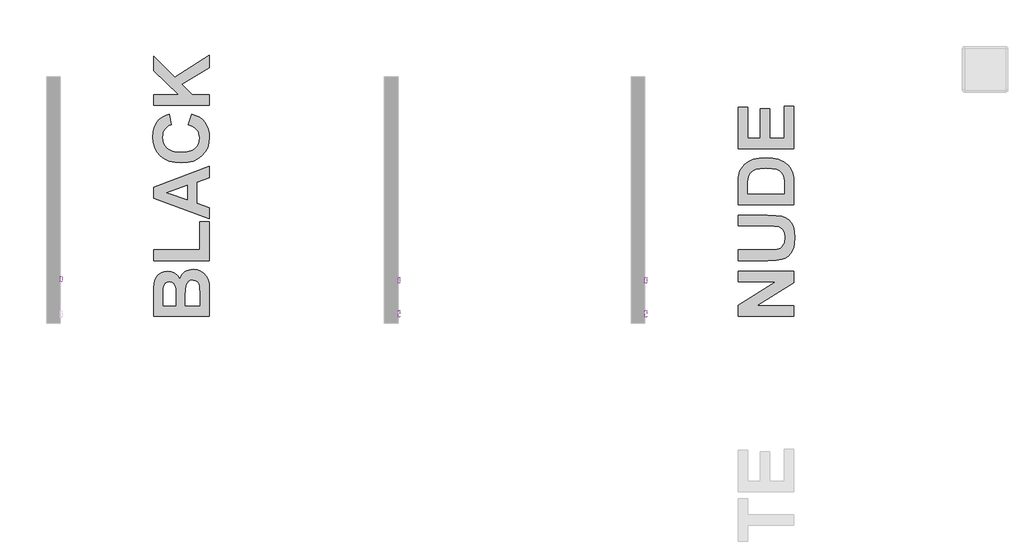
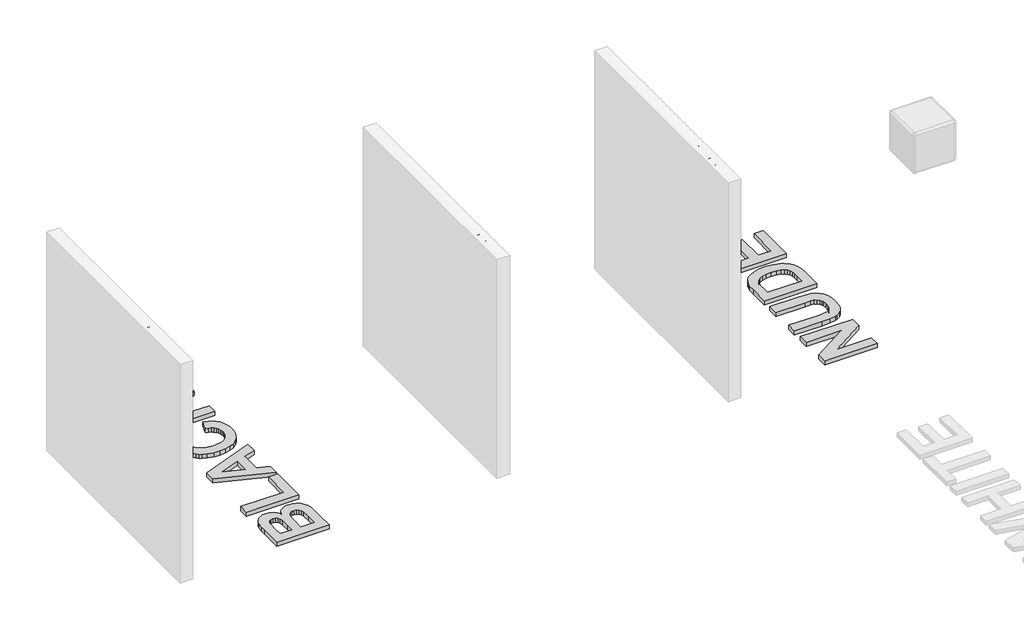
# One storey, part 7 of 8: 7 proxies.
"""IFC4 building model written with IfcOpenShell, lengths in millimetres."""

from ifc_helpers import new_model, si_unit, frame, origin, origin_with_axes, place, context, project, spatial, polyline, outline, extrude, element, save

model = new_model("IFC4")

# Units and contexts
model_context = context("Model", 3, world=origin())
ifc_project = project(units=[si_unit("LENGTHUNIT", "METRE", prefix="MILLI")], contexts=[model_context])

# Site, building, storey
site = spatial("IfcSite", under=ifc_project)
building = spatial("IfcBuilding", under=site)
storey = spatial("IfcBuildingStorey", under=building, Name="PORTOBELLO - SHOWROOM", Elevation=0.0)

# Proxies
placement = place(None, origin())
element("IfcBuildingElementProxy", 1, Name="10mm Arial", ObjectType="10mm Arial", at=placement, inside=storey, context=model_context, shape_type="SweptSolid", body=[
    extrude(outline(polyline([(1635.0884642, 2548.8308244), (1635.0884642, 2649.2871345), (1648.5284197, 2649.2871345), (1701.0129177, 2569.7019962), (1701.0129177, 2649.2871345), (1713.5699565, 2649.2871345), (1713.5699565, 2548.8308244), (1700.1300009, 2548.8308244), (1647.645503, 2628.4404881), (1647.645503, 2548.8308244), (1635.0884642, 2548.8308244)])), frame((23414.625413, 0.0, 0.0), z_axis=(1.0, 0.0, 0.0), x_axis=(0.0, 1.0, 0.0)), (0.0, 0.0, 1.0), 20.0),
    extrude(outline(polyline([(1781.0640399, 2548.8308244), (1781.0640399, 2561.5104905), (1771.2293279, 2550.8235185), (1758.402509, 2547.2611945), (1746.5934969, 2549.7627921), (1738.4510421, 2556.0413115), (1734.7109085, 2565.2874123), (1733.9751445, 2576.9615343), (1733.9751445, 2622.6034272), (1746.5321833, 2622.6034272), (1746.5321833, 2582.8721717), (1747.2924727, 2570.0698782), (1752.2588797, 2562.5528228), (1761.6153451, 2559.8182333), (1772.0999819, 2562.6141365), (1779.0284262, 2570.2292938), (1781.0640399, 2584.2210723), (1781.0640399, 2622.6034272), (1793.6210786, 2622.6034272), (1793.6210786, 2548.8308244), (1781.0640399, 2548.8308244)])), frame((23414.625413, 0.0, 0.0), z_axis=(1.0, 0.0, 0.0), x_axis=(0.0, 1.0, 0.0)), (0.0, 0.0, 1.0), 20.0),
    extrude(outline(polyline([(1856.4062725, 2548.8308244), (1856.4062725, 2560.6766246), (1848.0982708, 2550.6150521), (1836.6142211, 2547.2611945), (1821.0650755, 2552.1172369), (1810.0776666, 2565.667557), (1806.1781174, 2585.6435494), (1809.7710982, 2605.6318044), (1820.537778, 2619.3905911), (1836.5651702, 2624.173057), (1848.1411903, 2620.7517544), (1856.4062725, 2611.8612729), (1856.4062725, 2649.2871345), (1868.9633113, 2649.2871345), (1868.9633113, 2548.8308244), (1856.4062725, 2548.8308244)]), holes=[polyline([(1818.7351562, 2585.6926003), (1820.1515019, 2574.3342437), (1824.4005389, 2566.2561682), (1830.5748251, 2561.427717), (1837.7669181, 2559.8182333), (1844.9559454, 2561.3541406), (1850.9738817, 2565.9618626), (1855.0481748, 2573.7272384), (1856.4062725, 2584.7361071), (1855.0236493, 2596.7719797), (1850.8757798, 2605.1167696), (1844.7045594, 2609.9912061), (1837.2518833, 2611.6160182), (1829.9862139, 2610.0555854), (1824.0326569, 2605.374287), (1820.0595314, 2597.3329998), (1818.7351562, 2585.6926003)])]), frame((23414.625413, 0.0, 0.0), z_axis=(1.0, 0.0, 0.0), x_axis=(0.0, 1.0, 0.0)), (0.0, 0.0, 1.0), 20.0),
    extrude(outline(polyline([(1939.4495015, 2570.8056422), (1951.7612856, 2569.2360124), (1947.3252419, 2559.9592547), (1940.2465792, 2553.0246791), (1930.684713, 2548.7020657), (1918.7990589, 2547.2611945), (1904.065385, 2549.7474637), (1892.7284881, 2557.2062711), (1885.4996069, 2569.1532389), (1883.0899799, 2585.1039891), (1885.5241324, 2601.5912339), (1892.82659, 2613.9214121), (1904.0102027, 2621.6101458), (1918.0878203, 2624.173057), (1931.7270453, 2621.6162771), (1942.6255494, 2613.9459375), (1949.7716572, 2601.6402848), (1952.1536931, 2585.1775655), (1952.0801167, 2581.7930512), (1895.6470186, 2581.7930512), (1897.8205881, 2572.3936662), (1902.8697685, 2565.483616), (1910.1568977, 2561.234579), (1919.0443135, 2559.8182333), (1931.3560976, 2562.4424582), (1939.4495015, 2570.8056422)]), holes=[polyline([(1895.6470186, 2594.3500899), (1939.5966543, 2594.3500899), (1934.5689337, 2605.7299063), (1927.248082, 2610.1444902), (1918.0387694, 2611.6160182), (1902.5754629, 2606.9193914), (1897.7102235, 2601.4287526), (1895.6470186, 2594.3500899)])]), frame((23414.625413, 0.0, 0.0), z_axis=(1.0, 0.0, 0.0), x_axis=(0.0, 1.0, 0.0)), (0.0, 0.0, 1.0), 20.0),
])
element("IfcBuildingElementProxy", 2, Name="10mm Arial", ObjectType="10mm Arial", at=placement, inside=storey, context=model_context, shape_type="SweptSolid", body=[
    extrude(outline(polyline([(1635.0884642, 2548.8308244), (1635.0884642, 2649.2871345), (1648.5284197, 2649.2871345), (1701.0129177, 2569.7019962), (1701.0129177, 2649.2871345), (1713.5699565, 2649.2871345), (1713.5699565, 2548.8308244), (1700.1300009, 2548.8308244), (1647.645503, 2628.4404881), (1647.645503, 2548.8308244), (1635.0884642, 2548.8308244)])), frame((20714.625413, 0.0, 0.0), z_axis=(1.0, 0.0, 0.0), x_axis=(0.0, 1.0, 0.0)), (0.0, 0.0, 1.0), 20.0),
    extrude(outline(polyline([(1781.0640399, 2548.8308244), (1781.0640399, 2561.5104905), (1771.2293279, 2550.8235185), (1758.402509, 2547.2611945), (1746.5934969, 2549.7627921), (1738.4510421, 2556.0413115), (1734.7109085, 2565.2874123), (1733.9751445, 2576.9615343), (1733.9751445, 2622.6034272), (1746.5321833, 2622.6034272), (1746.5321833, 2582.8721717), (1747.2924727, 2570.0698782), (1752.2588797, 2562.5528228), (1761.6153451, 2559.8182333), (1772.0999819, 2562.6141365), (1779.0284262, 2570.2292938), (1781.0640399, 2584.2210723), (1781.0640399, 2622.6034272), (1793.6210786, 2622.6034272), (1793.6210786, 2548.8308244), (1781.0640399, 2548.8308244)])), frame((20714.625413, 0.0, 0.0), z_axis=(1.0, 0.0, 0.0), x_axis=(0.0, 1.0, 0.0)), (0.0, 0.0, 1.0), 20.0),
    extrude(outline(polyline([(1856.4062725, 2548.8308244), (1856.4062725, 2560.6766246), (1848.0982708, 2550.6150521), (1836.6142211, 2547.2611945), (1821.0650755, 2552.1172369), (1810.0776666, 2565.667557), (1806.1781174, 2585.6435494), (1809.7710982, 2605.6318044), (1820.537778, 2619.3905911), (1836.5651702, 2624.173057), (1848.1411903, 2620.7517544), (1856.4062725, 2611.8612729), (1856.4062725, 2649.2871345), (1868.9633113, 2649.2871345), (1868.9633113, 2548.8308244), (1856.4062725, 2548.8308244)]), holes=[polyline([(1818.7351562, 2585.6926003), (1820.1515019, 2574.3342437), (1824.4005389, 2566.2561682), (1830.5748251, 2561.427717), (1837.7669181, 2559.8182333), (1844.9559454, 2561.3541406), (1850.9738817, 2565.9618626), (1855.0481748, 2573.7272384), (1856.4062725, 2584.7361071), (1855.0236493, 2596.7719797), (1850.8757798, 2605.1167696), (1844.7045594, 2609.9912061), (1837.2518833, 2611.6160182), (1829.9862139, 2610.0555854), (1824.0326569, 2605.374287), (1820.0595314, 2597.3329998), (1818.7351562, 2585.6926003)])]), frame((20714.625413, 0.0, 0.0), z_axis=(1.0, 0.0, 0.0), x_axis=(0.0, 1.0, 0.0)), (0.0, 0.0, 1.0), 20.0),
    extrude(outline(polyline([(1939.4495015, 2570.8056422), (1951.7612856, 2569.2360124), (1947.3252419, 2559.9592547), (1940.2465792, 2553.0246791), (1930.684713, 2548.7020657), (1918.7990589, 2547.2611945), (1904.065385, 2549.7474637), (1892.7284881, 2557.2062711), (1885.4996069, 2569.1532389), (1883.0899799, 2585.1039891), (1885.5241324, 2601.5912339), (1892.82659, 2613.9214121), (1904.0102027, 2621.6101458), (1918.0878203, 2624.173057), (1931.7270453, 2621.6162771), (1942.6255494, 2613.9459375), (1949.7716572, 2601.6402848), (1952.1536931, 2585.1775655), (1952.0801167, 2581.7930512), (1895.6470186, 2581.7930512), (1897.8205881, 2572.3936662), (1902.8697685, 2565.483616), (1910.1568977, 2561.234579), (1919.0443135, 2559.8182333), (1931.3560976, 2562.4424582), (1939.4495015, 2570.8056422)]), holes=[polyline([(1895.6470186, 2594.3500899), (1939.5966543, 2594.3500899), (1934.5689337, 2605.7299063), (1927.248082, 2610.1444902), (1918.0387694, 2611.6160182), (1902.5754629, 2606.9193914), (1897.7102235, 2601.4287526), (1895.6470186, 2594.3500899)])]), frame((20714.625413, 0.0, 0.0), z_axis=(1.0, 0.0, 0.0), x_axis=(0.0, 1.0, 0.0)), (0.0, 0.0, 1.0), 20.0),
])
element("IfcBuildingElementProxy", 3, Name="10mm Arial Narrow", ObjectType="10mm Arial Narrow", at=placement, inside=storey, context=model_context, shape_type="SweptSolid", body=[
    extrude(outline(polyline([(2024.6117137, 2548.8308244), (2024.6117137, 2649.5494281), (2055.9085984, 2649.5494281), (2072.2042999, 2647.6711074), (2083.677286, 2638.1906642), (2087.9669644, 2621.1715554), (2086.180656, 2609.0957299), (2080.8217308, 2599.4693361), (2071.077942, 2593.1680777), (2056.1370428, 2591.0676582), (2034.3586753, 2591.0676582), (2034.3586753, 2548.8308244), (2024.6117137, 2548.8308244)]), holes=[polyline([(2034.3586753, 2602.4391135), (2057.3300303, 2602.4391135), (2073.1942257, 2606.9699277), (2078.2200028, 2620.6385184), (2075.7451883, 2630.8042949), (2069.7675595, 2636.6042447), (2057.1015858, 2638.1779729), (2034.3586753, 2638.1779729), (2034.3586753, 2602.4391135)])]), frame((17014.625413, 0.0, 0.0), z_axis=(1.0, 0.0, 0.0), x_axis=(0.0, 1.0, 0.0)), (0.0, 0.0, 1.0), 20.0),
    extrude(outline(polyline([(2096.0894325, 2585.3819306), (2098.0439013, 2601.9727061), (2103.907308, 2613.9247909), (2112.7658747, 2621.1493455), (2123.7058238, 2623.5575304), (2134.5188594, 2621.1493455), (2143.4028088, 2613.9247909), (2149.3423636, 2602.1630765), (2151.3222152, 2586.143412), (2149.3772648, 2568.9815254), (2143.5424137, 2556.8390702), (2134.6933655, 2549.6145156), (2123.7058238, 2547.2063308), (2112.8451956, 2549.6208613), (2103.9707647, 2556.8644529), (2098.0597655, 2568.8228834), (2096.0894325, 2585.3819306)]), holes=[polyline([(2105.8363941, 2585.4073133), (2107.140431, 2572.8555619), (2111.0525416, 2563.9843038), (2116.8937383, 2558.7110453), (2123.9850337, 2556.9532924), (2130.7051068, 2558.7269095), (2136.3971801, 2564.0477606), (2140.2807352, 2572.9348829), (2141.5752535, 2585.4073133), (2140.2712167, 2597.9209906), (2136.3591061, 2606.7795573), (2130.5179093, 2612.0528159), (2123.426614, 2613.8105687), (2116.6589482, 2612.0432974), (2110.9763934, 2606.7414833), (2107.1213939, 2597.873398), (2105.8363941, 2585.4073133)])]), frame((17014.625413, 0.0, 0.0), z_axis=(1.0, 0.0, 0.0), x_axis=(0.0, 1.0, 0.0)), (0.0, 0.0, 1.0), 20.0),
    extrude(outline(polyline([(2222.799934, 2556.9532924), (2224.4244276, 2547.2063308), (2217.0634409, 2547.2063308), (2208.7886766, 2549.3257873), (2204.4736154, 2555.1257371), (2203.3060107, 2569.7715623), (2203.3060107, 2612.1860751), (2195.1835426, 2612.1860751), (2195.1835426, 2615.4350624), (2193.559049, 2610.5615815), (2185.9950006, 2612.1860751), (2179.915841, 2609.8635569), (2176.0449773, 2603.3782738), (2174.0651257, 2587.9709673), (2174.0651257, 2548.8308244), (2164.318164, 2548.8308244), (2164.318164, 2621.9330368), (2174.0651257, 2621.9330368), (2174.0651257, 2612.2368406), (2180.309273, 2621.3238517), (2186.7057166, 2623.5575304), (2195.1835426, 2621.9330368), (2203.3060107, 2621.9330368), (2203.3060107, 2638.1779729), (2213.0529723, 2646.3004409), (2213.0529723, 2621.9330368), (2222.799934, 2621.9330368), (2222.799934, 2612.1860751), (2213.0529723, 2612.1860751), (2213.0529723, 2567.5378836), (2213.9159845, 2559.5423291), (2218.5356382, 2556.9532924), (2222.799934, 2556.9532924)])), frame((17014.625413, 0.0, 0.0), z_axis=(1.0, 0.0, 0.0), x_axis=(0.0, 1.0, 0.0)), (0.0, 0.0, 1.0), 20.0),
    extrude(outline(polyline([(2229.2979084, 2585.3819306), (2231.2523773, 2601.9727061), (2237.1157839, 2613.9247909), (2245.9743506, 2621.1493455), (2256.9142997, 2623.5575304), (2267.7273353, 2621.1493455), (2276.6112848, 2613.9247909), (2282.5508395, 2602.1630765), (2284.5306911, 2586.143412), (2282.5857407, 2568.9815254), (2276.7508897, 2556.8390702), (2267.9018415, 2549.6145156), (2256.9142997, 2547.2063308), (2246.0536716, 2549.6208613), (2237.1792407, 2556.8644529), (2231.2682415, 2568.8228834), (2229.2979084, 2585.3819306)]), holes=[polyline([(2239.04487, 2585.4073133), (2240.3489069, 2572.8555619), (2244.2610175, 2563.9843038), (2250.1022142, 2558.7110453), (2257.1935096, 2556.9532924), (2263.9135828, 2558.7269095), (2269.6056561, 2564.0477606), (2273.4892111, 2572.9348829), (2274.7837294, 2585.4073133), (2273.4796926, 2597.9209906), (2269.567582, 2606.7795573), (2263.7263852, 2612.0528159), (2256.6350899, 2613.8105687), (2249.8674241, 2612.0432974), (2244.1848694, 2606.7414833), (2240.3298699, 2597.873398), (2239.04487, 2585.4073133)])]), frame((17014.625413, 0.0, 0.0), z_axis=(1.0, 0.0, 0.0), x_axis=(0.0, 1.0, 0.0)), (0.0, 0.0, 1.0), 20.0),
    extrude(outline(polyline([(2307.2736016, 2548.8308244), (2297.52664, 2548.8308244), (2297.52664, 2649.5494281), (2307.2736016, 2649.5494281), (2307.2736016, 2614.140544), (2314.6726624, 2621.2223208), (2323.8738957, 2623.5575304), (2336.7556224, 2619.3566915), (2346.0330038, 2606.6272611), (2349.5104355, 2585.9403503), (2347.5781765, 2569.4860068), (2341.7813995, 2557.2832677), (2333.4082771, 2549.725565), (2323.7469821, 2547.2063308), (2314.4061439, 2549.8207502), (2307.2736016, 2557.5878602), (2307.2736016, 2548.8308244)]), holes=[polyline([(2307.2736016, 2585.9403503), (2309.3549841, 2568.692797), (2315.2437734, 2559.9611439), (2323.6962167, 2556.9532924), (2329.6389443, 2558.7427737), (2334.8773016, 2564.1112174), (2339.7634738, 2585.5342269), (2335.0549806, 2606.9699277), (2329.8102776, 2612.1004085), (2323.493155, 2613.8105687), (2317.5155262, 2612.0210875), (2312.2232306, 2606.6526438), (2307.2736016, 2585.9403503)])]), frame((17014.625413, 0.0, 0.0), z_axis=(1.0, 0.0, 0.0), x_axis=(0.0, 1.0, 0.0)), (0.0, 0.0, 1.0), 20.0),
    extrude(outline(polyline([(2401.4942309, 2571.5737349), (2411.2411926, 2569.9492413), (2407.5416622, 2560.0626747), (2401.7226754, 2552.9428238), (2394.0190221, 2548.640454), (2384.6654925, 2547.2063308), (2373.0719385, 2549.6208613), (2363.9278162, 2556.8644529), (2357.9882615, 2568.6705872), (2356.0084099, 2584.7727455), (2357.99778, 2601.4396692), (2363.9658903, 2613.6201984), (2372.9799261, 2621.0731974), (2384.1070728, 2623.5575304), (2394.790022, 2621.1588641), (2403.5375393, 2613.962865), (2409.3723904, 2602.2233604), (2411.3173407, 2586.1941774), (2411.2411926, 2582.9451902), (2365.7553715, 2582.9451902), (2371.7583831, 2563.5020323), (2377.6884193, 2558.5904774), (2384.792406, 2556.9532924), (2394.9708738, 2560.608403), (2401.4942309, 2571.5737349)]), holes=[polyline([(2366.4153221, 2592.6921518), (2401.4942309, 2592.6921518), (2397.2299352, 2606.9572363), (2391.4046027, 2612.0972356), (2384.1832209, 2613.8105687), (2371.9741361, 2608.0994584), (2366.4153221, 2592.6921518)])]), frame((17014.625413, 0.0, 0.0), z_axis=(1.0, 0.0, 0.0), x_axis=(0.0, 1.0, 0.0)), (0.0, 0.0, 1.0), 20.0),
    extrude(outline(polyline([(17034.625413, 2433.9841031), (17034.625413, 2424.2371415), (17014.625413, 2424.2371415), (17014.625413, 2433.9841031), (17034.625413, 2433.9841031)])), frame((0.0, 0.0, 2548.8308244), z_axis=(0.0, 0.0, 1.0), x_axis=(1.0, 0.0, 0.0)), (0.0, 0.0, 1.0), 100.7186038),
    extrude(outline(polyline([(17034.625413, 2459.9760009), (17034.625413, 2450.2290392), (17014.625413, 2450.2290392), (17014.625413, 2459.9760009), (17034.625413, 2459.9760009)])), frame((0.0, 0.0, 2548.8308244), z_axis=(0.0, 0.0, 1.0), x_axis=(1.0, 0.0, 0.0)), (0.0, 0.0, 1.0), 100.7186038),
    extrude(outline(polyline([(2471.3474561, 2585.3819306), (2473.301925, 2601.9727061), (2479.1653316, 2613.9247909), (2488.0238983, 2621.1493455), (2498.9638475, 2623.5575304), (2509.7768831, 2621.1493455), (2518.6608325, 2613.9247909), (2524.6003872, 2602.1630765), (2526.5802388, 2586.143412), (2524.6352885, 2568.9815254), (2518.8004374, 2556.8390702), (2509.9513892, 2549.6145156), (2498.9638475, 2547.2063308), (2488.1032193, 2549.6208613), (2479.2287884, 2556.8644529), (2473.3177892, 2568.8228834), (2471.3474561, 2585.3819306)]), holes=[polyline([(2481.0944178, 2585.4073133), (2482.3984546, 2572.8555619), (2486.3105652, 2563.9843038), (2492.151762, 2558.7110453), (2499.2430573, 2556.9532924), (2505.9631305, 2558.7269095), (2511.6552038, 2564.0477606), (2515.5387588, 2572.9348829), (2516.8332772, 2585.4073133), (2515.5292403, 2597.9209906), (2511.6171297, 2606.7795573), (2505.775933, 2612.0528159), (2498.6846376, 2613.8105687), (2491.9169719, 2612.0432974), (2486.2344171, 2606.7414833), (2482.3794176, 2597.873398), (2481.0944178, 2585.4073133)])]), frame((17014.625413, 0.0, 0.0), z_axis=(1.0, 0.0, 0.0), x_axis=(0.0, 1.0, 0.0)), (0.0, 0.0, 1.0), 20.0),
])
element("IfcBuildingElementProxy", 4, Name="10mm Arial Narrow", ObjectType="10mm Arial Narrow", at=placement, inside=storey, context=model_context, shape_type="SweptSolid", body=[
    extrude(outline(polyline([(2009.6117137, 2548.8308244), (2009.6117137, 2649.5494281), (2040.9085984, 2649.5494281), (2057.2042999, 2647.6711074), (2068.677286, 2638.1906642), (2072.9669644, 2621.1715554), (2071.180656, 2609.0957299), (2065.8217308, 2599.4693361), (2056.077942, 2593.1680777), (2041.1370428, 2591.0676582), (2019.3586753, 2591.0676582), (2019.3586753, 2548.8308244), (2009.6117137, 2548.8308244)]), holes=[polyline([(2019.3586753, 2602.4391135), (2042.3300303, 2602.4391135), (2058.1942257, 2606.9699277), (2063.2200028, 2620.6385184), (2060.7451883, 2630.8042949), (2054.7675595, 2636.6042447), (2042.1015858, 2638.1779729), (2019.3586753, 2638.1779729), (2019.3586753, 2602.4391135)])]), frame((23414.625413, 0.0, 0.0), z_axis=(1.0, 0.0, 0.0), x_axis=(0.0, 1.0, 0.0)), (0.0, 0.0, 1.0), 20.0),
    extrude(outline(polyline([(2081.0894325, 2585.3819306), (2083.0439013, 2601.9727061), (2088.907308, 2613.9247909), (2097.7658747, 2621.1493455), (2108.7058238, 2623.5575304), (2119.5188594, 2621.1493455), (2128.4028088, 2613.9247909), (2134.3423636, 2602.1630765), (2136.3222152, 2586.143412), (2134.3772648, 2568.9815254), (2128.5424137, 2556.8390702), (2119.6933655, 2549.6145156), (2108.7058238, 2547.2063308), (2097.8451956, 2549.6208613), (2088.9707647, 2556.8644529), (2083.0597655, 2568.8228834), (2081.0894325, 2585.3819306)]), holes=[polyline([(2090.8363941, 2585.4073133), (2092.140431, 2572.8555619), (2096.0525416, 2563.9843038), (2101.8937383, 2558.7110453), (2108.9850337, 2556.9532924), (2115.7051068, 2558.7269095), (2121.3971801, 2564.0477606), (2125.2807352, 2572.9348829), (2126.5752535, 2585.4073133), (2125.2712167, 2597.9209906), (2121.3591061, 2606.7795573), (2115.5179093, 2612.0528159), (2108.426614, 2613.8105687), (2101.6589482, 2612.0432974), (2095.9763934, 2606.7414833), (2092.1213939, 2597.873398), (2090.8363941, 2585.4073133)])]), frame((23414.625413, 0.0, 0.0), z_axis=(1.0, 0.0, 0.0), x_axis=(0.0, 1.0, 0.0)), (0.0, 0.0, 1.0), 20.0),
    extrude(outline(polyline([(2207.799934, 2556.9532924), (2209.4244276, 2547.2063308), (2202.0634409, 2547.2063308), (2193.7886766, 2549.3257873), (2189.4736154, 2555.1257371), (2188.3060107, 2569.7715623), (2188.3060107, 2612.1860751), (2180.1835426, 2612.1860751), (2180.1835426, 2615.4350624), (2178.559049, 2610.5615815), (2170.9950006, 2612.1860751), (2164.915841, 2609.8635569), (2161.0449773, 2603.3782738), (2159.0651257, 2587.9709673), (2159.0651257, 2548.8308244), (2149.318164, 2548.8308244), (2149.318164, 2621.9330368), (2159.0651257, 2621.9330368), (2159.0651257, 2612.2368406), (2165.309273, 2621.3238517), (2171.7057166, 2623.5575304), (2180.1835426, 2621.9330368), (2188.3060107, 2621.9330368), (2188.3060107, 2638.1779729), (2198.0529723, 2646.3004409), (2198.0529723, 2621.9330368), (2207.799934, 2621.9330368), (2207.799934, 2612.1860751), (2198.0529723, 2612.1860751), (2198.0529723, 2567.5378836), (2198.9159845, 2559.5423291), (2203.5356382, 2556.9532924), (2207.799934, 2556.9532924)])), frame((23414.625413, 0.0, 0.0), z_axis=(1.0, 0.0, 0.0), x_axis=(0.0, 1.0, 0.0)), (0.0, 0.0, 1.0), 20.0),
    extrude(outline(polyline([(2214.2979084, 2585.3819306), (2216.2523773, 2601.9727061), (2222.1157839, 2613.9247909), (2230.9743506, 2621.1493455), (2241.9142997, 2623.5575304), (2252.7273353, 2621.1493455), (2261.6112848, 2613.9247909), (2267.5508395, 2602.1630765), (2269.5306911, 2586.143412), (2267.5857407, 2568.9815254), (2261.7508897, 2556.8390702), (2252.9018415, 2549.6145156), (2241.9142997, 2547.2063308), (2231.0536716, 2549.6208613), (2222.1792407, 2556.8644529), (2216.2682415, 2568.8228834), (2214.2979084, 2585.3819306)]), holes=[polyline([(2224.04487, 2585.4073133), (2225.3489069, 2572.8555619), (2229.2610175, 2563.9843038), (2235.1022142, 2558.7110453), (2242.1935096, 2556.9532924), (2248.9135828, 2558.7269095), (2254.6056561, 2564.0477606), (2258.4892111, 2572.9348829), (2259.7837294, 2585.4073133), (2258.4796926, 2597.9209906), (2254.567582, 2606.7795573), (2248.7263852, 2612.0528159), (2241.6350899, 2613.8105687), (2234.8674241, 2612.0432974), (2229.1848694, 2606.7414833), (2225.3298699, 2597.873398), (2224.04487, 2585.4073133)])]), frame((23414.625413, 0.0, 0.0), z_axis=(1.0, 0.0, 0.0), x_axis=(0.0, 1.0, 0.0)), (0.0, 0.0, 1.0), 20.0),
    extrude(outline(polyline([(2292.2736016, 2548.8308244), (2282.52664, 2548.8308244), (2282.52664, 2649.5494281), (2292.2736016, 2649.5494281), (2292.2736016, 2614.140544), (2299.6726624, 2621.2223208), (2308.8738957, 2623.5575304), (2321.7556224, 2619.3566915), (2331.0330038, 2606.6272611), (2334.5104355, 2585.9403503), (2332.5781765, 2569.4860068), (2326.7813995, 2557.2832677), (2318.4082771, 2549.725565), (2308.7469821, 2547.2063308), (2299.4061439, 2549.8207502), (2292.2736016, 2557.5878602), (2292.2736016, 2548.8308244)]), holes=[polyline([(2292.2736016, 2585.9403503), (2294.3549841, 2568.692797), (2300.2437734, 2559.9611439), (2308.6962167, 2556.9532924), (2314.6389443, 2558.7427737), (2319.8773016, 2564.1112174), (2324.7634738, 2585.5342269), (2320.0549806, 2606.9699277), (2314.8102776, 2612.1004085), (2308.493155, 2613.8105687), (2302.5155262, 2612.0210875), (2297.2232306, 2606.6526438), (2292.2736016, 2585.9403503)])]), frame((23414.625413, 0.0, 0.0), z_axis=(1.0, 0.0, 0.0), x_axis=(0.0, 1.0, 0.0)), (0.0, 0.0, 1.0), 20.0),
    extrude(outline(polyline([(2386.4942309, 2571.5737349), (2396.2411926, 2569.9492413), (2392.5416622, 2560.0626747), (2386.7226754, 2552.9428238), (2379.0190221, 2548.640454), (2369.6654925, 2547.2063308), (2358.0719385, 2549.6208613), (2348.9278162, 2556.8644529), (2342.9882615, 2568.6705872), (2341.0084099, 2584.7727455), (2342.99778, 2601.4396692), (2348.9658903, 2613.6201984), (2357.9799261, 2621.0731974), (2369.1070728, 2623.5575304), (2379.790022, 2621.1588641), (2388.5375393, 2613.962865), (2394.3723904, 2602.2233604), (2396.3173407, 2586.1941774), (2396.2411926, 2582.9451902), (2350.7553715, 2582.9451902), (2356.7583831, 2563.5020323), (2362.6884193, 2558.5904774), (2369.792406, 2556.9532924), (2379.9708738, 2560.608403), (2386.4942309, 2571.5737349)]), holes=[polyline([(2351.4153221, 2592.6921518), (2386.4942309, 2592.6921518), (2382.2299352, 2606.9572363), (2376.4046027, 2612.0972356), (2369.1832209, 2613.8105687), (2356.9741361, 2608.0994584), (2351.4153221, 2592.6921518)])]), frame((23414.625413, 0.0, 0.0), z_axis=(1.0, 0.0, 0.0), x_axis=(0.0, 1.0, 0.0)), (0.0, 0.0, 1.0), 20.0),
    extrude(outline(polyline([(23434.625413, 2418.9841031), (23434.625413, 2409.2371415), (23414.625413, 2409.2371415), (23414.625413, 2418.9841031), (23434.625413, 2418.9841031)])), frame((0.0, 0.0, 2548.8308244), z_axis=(0.0, 0.0, 1.0), x_axis=(1.0, 0.0, 0.0)), (0.0, 0.0, 1.0), 100.7186038),
    extrude(outline(polyline([(23434.625413, 2444.9760009), (23434.625413, 2435.2290392), (23414.625413, 2435.2290392), (23414.625413, 2444.9760009), (23434.625413, 2444.9760009)])), frame((0.0, 0.0, 2548.8308244), z_axis=(0.0, 0.0, 1.0), x_axis=(1.0, 0.0, 0.0)), (0.0, 0.0, 1.0), 100.7186038),
    extrude(outline(polyline([(2456.3474561, 2585.3819306), (2458.301925, 2601.9727061), (2464.1653316, 2613.9247909), (2473.0238983, 2621.1493455), (2483.9638475, 2623.5575304), (2494.7768831, 2621.1493455), (2503.6608325, 2613.9247909), (2509.6003872, 2602.1630765), (2511.5802388, 2586.143412), (2509.6352885, 2568.9815254), (2503.8004374, 2556.8390702), (2494.9513892, 2549.6145156), (2483.9638475, 2547.2063308), (2473.1032193, 2549.6208613), (2464.2287884, 2556.8644529), (2458.3177892, 2568.8228834), (2456.3474561, 2585.3819306)]), holes=[polyline([(2466.0944178, 2585.4073133), (2467.3984546, 2572.8555619), (2471.3105652, 2563.9843038), (2477.151762, 2558.7110453), (2484.2430573, 2556.9532924), (2490.9631305, 2558.7269095), (2496.6552038, 2564.0477606), (2500.5387588, 2572.9348829), (2501.8332772, 2585.4073133), (2500.5292403, 2597.9209906), (2496.6171297, 2606.7795573), (2490.775933, 2612.0528159), (2483.6846376, 2613.8105687), (2476.9169719, 2612.0432974), (2471.2344171, 2606.7414833), (2467.3794176, 2597.873398), (2466.0944178, 2585.4073133)])]), frame((23414.625413, 0.0, 0.0), z_axis=(1.0, 0.0, 0.0), x_axis=(0.0, 1.0, 0.0)), (0.0, 0.0, 1.0), 20.0),
])
element("IfcBuildingElementProxy", 5, Name="10mm Arial Narrow", ObjectType="10mm Arial Narrow", at=placement, inside=storey, context=model_context, shape_type="SweptSolid", body=[
    extrude(outline(polyline([(2009.6117137, 2548.8308244), (2009.6117137, 2649.5494281), (2040.9085984, 2649.5494281), (2057.2042999, 2647.6711074), (2068.677286, 2638.1906642), (2072.9669644, 2621.1715554), (2071.180656, 2609.0957299), (2065.8217308, 2599.4693361), (2056.077942, 2593.1680777), (2041.1370428, 2591.0676582), (2019.3586753, 2591.0676582), (2019.3586753, 2548.8308244), (2009.6117137, 2548.8308244)]), holes=[polyline([(2019.3586753, 2602.4391135), (2042.3300303, 2602.4391135), (2058.1942257, 2606.9699277), (2063.2200028, 2620.6385184), (2060.7451883, 2630.8042949), (2054.7675595, 2636.6042447), (2042.1015858, 2638.1779729), (2019.3586753, 2638.1779729), (2019.3586753, 2602.4391135)])]), frame((20714.625413, 0.0, 0.0), z_axis=(1.0, 0.0, 0.0), x_axis=(0.0, 1.0, 0.0)), (0.0, 0.0, 1.0), 20.0),
    extrude(outline(polyline([(2081.0894325, 2585.3819306), (2083.0439013, 2601.9727061), (2088.907308, 2613.9247909), (2097.7658747, 2621.1493455), (2108.7058238, 2623.5575304), (2119.5188594, 2621.1493455), (2128.4028088, 2613.9247909), (2134.3423636, 2602.1630765), (2136.3222152, 2586.143412), (2134.3772648, 2568.9815254), (2128.5424137, 2556.8390702), (2119.6933655, 2549.6145156), (2108.7058238, 2547.2063308), (2097.8451956, 2549.6208613), (2088.9707647, 2556.8644529), (2083.0597655, 2568.8228834), (2081.0894325, 2585.3819306)]), holes=[polyline([(2090.8363941, 2585.4073133), (2092.140431, 2572.8555619), (2096.0525416, 2563.9843038), (2101.8937383, 2558.7110453), (2108.9850337, 2556.9532924), (2115.7051068, 2558.7269095), (2121.3971801, 2564.0477606), (2125.2807352, 2572.9348829), (2126.5752535, 2585.4073133), (2125.2712166, 2597.9209906), (2121.3591061, 2606.7795573), (2115.5179093, 2612.0528159), (2108.426614, 2613.8105687), (2101.6589482, 2612.0432974), (2095.9763934, 2606.7414833), (2092.1213939, 2597.873398), (2090.8363941, 2585.4073133)])]), frame((20714.625413, 0.0, 0.0), z_axis=(1.0, 0.0, 0.0), x_axis=(0.0, 1.0, 0.0)), (0.0, 0.0, 1.0), 20.0),
    extrude(outline(polyline([(2207.799934, 2556.9532924), (2209.4244276, 2547.2063308), (2202.0634409, 2547.2063308), (2193.7886766, 2549.3257873), (2189.4736154, 2555.1257371), (2188.3060107, 2569.7715623), (2188.3060107, 2612.1860751), (2180.1835426, 2612.1860751), (2180.1835426, 2615.4350624), (2178.559049, 2610.5615815), (2170.9950006, 2612.1860751), (2164.915841, 2609.8635569), (2161.0449773, 2603.3782738), (2159.0651257, 2587.9709673), (2159.0651257, 2548.8308244), (2149.318164, 2548.8308244), (2149.318164, 2621.9330368), (2159.0651257, 2621.9330368), (2159.0651257, 2612.2368406), (2165.309273, 2621.3238517), (2171.7057166, 2623.5575304), (2180.1835426, 2621.9330368), (2188.3060107, 2621.9330368), (2188.3060107, 2638.1779729), (2198.0529723, 2646.3004409), (2198.0529723, 2621.9330368), (2207.799934, 2621.9330368), (2207.799934, 2612.1860751), (2198.0529723, 2612.1860751), (2198.0529723, 2567.5378836), (2198.9159845, 2559.5423291), (2203.5356382, 2556.9532924), (2207.799934, 2556.9532924)])), frame((20714.625413, 0.0, 0.0), z_axis=(1.0, 0.0, 0.0), x_axis=(0.0, 1.0, 0.0)), (0.0, 0.0, 1.0), 20.0),
    extrude(outline(polyline([(2214.2979084, 2585.3819306), (2216.2523773, 2601.9727061), (2222.1157839, 2613.9247909), (2230.9743506, 2621.1493455), (2241.9142997, 2623.5575304), (2252.7273353, 2621.1493455), (2261.6112848, 2613.9247909), (2267.5508395, 2602.1630765), (2269.5306911, 2586.143412), (2267.5857407, 2568.9815254), (2261.7508897, 2556.8390702), (2252.9018415, 2549.6145156), (2241.9142997, 2547.2063308), (2231.0536716, 2549.6208613), (2222.1792407, 2556.8644529), (2216.2682415, 2568.8228834), (2214.2979084, 2585.3819306)]), holes=[polyline([(2224.04487, 2585.4073133), (2225.3489069, 2572.8555619), (2229.2610175, 2563.9843038), (2235.1022142, 2558.7110453), (2242.1935096, 2556.9532924), (2248.9135828, 2558.7269095), (2254.6056561, 2564.0477606), (2258.4892111, 2572.9348829), (2259.7837294, 2585.4073133), (2258.4796926, 2597.9209906), (2254.567582, 2606.7795573), (2248.7263852, 2612.0528159), (2241.6350899, 2613.8105687), (2234.8674241, 2612.0432974), (2229.1848694, 2606.7414833), (2225.3298699, 2597.873398), (2224.04487, 2585.4073133)])]), frame((20714.625413, 0.0, 0.0), z_axis=(1.0, 0.0, 0.0), x_axis=(0.0, 1.0, 0.0)), (0.0, 0.0, 1.0), 20.0),
    extrude(outline(polyline([(2292.2736016, 2548.8308244), (2282.52664, 2548.8308244), (2282.52664, 2649.5494281), (2292.2736016, 2649.5494281), (2292.2736016, 2614.140544), (2299.6726624, 2621.2223208), (2308.8738957, 2623.5575304), (2321.7556224, 2619.3566915), (2331.0330038, 2606.6272611), (2334.5104355, 2585.9403503), (2332.5781765, 2569.4860068), (2326.7813995, 2557.2832677), (2318.4082771, 2549.725565), (2308.7469821, 2547.2063308), (2299.4061439, 2549.8207502), (2292.2736016, 2557.5878602), (2292.2736016, 2548.8308244)]), holes=[polyline([(2292.2736016, 2585.9403503), (2294.3549841, 2568.692797), (2300.2437734, 2559.9611439), (2308.6962167, 2556.9532924), (2314.6389443, 2558.7427737), (2319.8773016, 2564.1112174), (2324.7634738, 2585.5342269), (2320.0549806, 2606.9699277), (2314.8102776, 2612.1004085), (2308.493155, 2613.8105687), (2302.5155262, 2612.0210875), (2297.2232306, 2606.6526438), (2292.2736016, 2585.9403503)])]), frame((20714.625413, 0.0, 0.0), z_axis=(1.0, 0.0, 0.0), x_axis=(0.0, 1.0, 0.0)), (0.0, 0.0, 1.0), 20.0),
    extrude(outline(polyline([(2386.4942309, 2571.5737349), (2396.2411926, 2569.9492413), (2392.5416622, 2560.0626747), (2386.7226754, 2552.9428238), (2379.0190221, 2548.640454), (2369.6654925, 2547.2063308), (2358.0719385, 2549.6208613), (2348.9278162, 2556.8644529), (2342.9882615, 2568.6705872), (2341.0084099, 2584.7727455), (2342.99778, 2601.4396692), (2348.9658903, 2613.6201984), (2357.9799261, 2621.0731974), (2369.1070728, 2623.5575304), (2379.790022, 2621.1588641), (2388.5375393, 2613.962865), (2394.3723904, 2602.2233604), (2396.3173407, 2586.1941774), (2396.2411926, 2582.9451902), (2350.7553715, 2582.9451902), (2356.7583831, 2563.5020323), (2362.6884193, 2558.5904774), (2369.792406, 2556.9532924), (2379.9708738, 2560.608403), (2386.4942309, 2571.5737349)]), holes=[polyline([(2351.4153221, 2592.6921518), (2386.4942309, 2592.6921518), (2382.2299352, 2606.9572363), (2376.4046027, 2612.0972356), (2369.1832209, 2613.8105687), (2356.9741361, 2608.0994584), (2351.4153221, 2592.6921518)])]), frame((20714.625413, 0.0, 0.0), z_axis=(1.0, 0.0, 0.0), x_axis=(0.0, 1.0, 0.0)), (0.0, 0.0, 1.0), 20.0),
    extrude(outline(polyline([(20734.625413, 2418.9841031), (20734.625413, 2409.2371415), (20714.625413, 2409.2371415), (20714.625413, 2418.9841031), (20734.625413, 2418.9841031)])), frame((0.0, 0.0, 2548.8308244), z_axis=(0.0, 0.0, 1.0), x_axis=(1.0, 0.0, 0.0)), (0.0, 0.0, 1.0), 100.7186038),
    extrude(outline(polyline([(20734.625413, 2444.9760009), (20734.625413, 2435.2290392), (20714.625413, 2435.2290392), (20714.625413, 2444.9760009), (20734.625413, 2444.9760009)])), frame((0.0, 0.0, 2548.8308244), z_axis=(0.0, 0.0, 1.0), x_axis=(1.0, 0.0, 0.0)), (0.0, 0.0, 1.0), 100.7186038),
    extrude(outline(polyline([(2456.3474561, 2585.3819306), (2458.301925, 2601.9727061), (2464.1653316, 2613.9247909), (2473.0238983, 2621.1493455), (2483.9638475, 2623.5575304), (2494.7768831, 2621.1493455), (2503.6608325, 2613.9247909), (2509.6003872, 2602.1630765), (2511.5802388, 2586.143412), (2509.6352885, 2568.9815254), (2503.8004374, 2556.8390702), (2494.9513892, 2549.6145156), (2483.9638475, 2547.2063308), (2473.1032193, 2549.6208613), (2464.2287884, 2556.8644529), (2458.3177892, 2568.8228834), (2456.3474561, 2585.3819306)]), holes=[polyline([(2466.0944178, 2585.4073133), (2467.3984546, 2572.8555619), (2471.3105652, 2563.9843038), (2477.151762, 2558.7110453), (2484.2430573, 2556.9532924), (2490.9631305, 2558.7269095), (2496.6552038, 2564.0477606), (2500.5387588, 2572.9348829), (2501.8332772, 2585.4073133), (2500.5292403, 2597.9209906), (2496.6171297, 2606.7795573), (2490.775933, 2612.0528159), (2483.6846376, 2613.8105687), (2476.9169719, 2612.0432974), (2471.2344171, 2606.7414833), (2467.3794176, 2597.873398), (2466.0944178, 2585.4073133)])]), frame((20714.625413, 0.0, 0.0), z_axis=(1.0, 0.0, 0.0), x_axis=(0.0, 1.0, 0.0)), (0.0, 0.0, 1.0), 20.0),
])
element("IfcBuildingElementProxy", 6, Name="600mm Arial", ObjectType="600mm Arial", at=placement, inside=storey, context=model_context, shape_type="SweptSolid", body=[
    extrude(outline(polyline([(18035.7688094, 1646.6476682), (18035.7688094, 1897.9169103), (18037.2870526, 1962.9926075), (18041.841782, 2009.1282214), (18051.2359115, 2043.8580335), (18067.2723549, 2074.7163257), (18089.8182657, 2101.2286467), (18118.7407978, 2122.9205458), (18152.8063786, 2137.3818119), (18190.7814355, 2142.2022339), (18232.1535615, 2136.4518879), (18270.0337282, 2119.2008501), (18301.6511419, 2092.0812317), (18324.2350088, 2056.7251443), (18333.7809626, 2080.5425838), (18346.1736224, 2101.4374052), (18361.4129881, 2119.4096085), (18379.4990596, 2134.4591938), (18399.871985, 2146.3489355), (18421.9719119, 2154.8416081), (18445.7988404, 2159.9372117), (18471.3527705, 2161.6357463), (18512.3643137, 2156.7583901), (18552.1992185, 2142.1263217), (18587.4983718, 2119.0490258), (18614.9026608, 2088.835987), (18633.8617222, 2051.1266226), (18643.8251929, 2005.56035), (18647.9244494, 1855.8615749), (18647.9244494, 1646.6476682), (18035.7688094, 1646.6476682)]), holes=[polyline([(18142.6531275, 1763.2487425), (18278.6877142, 1763.2487425), (18278.6877142, 1852.2177913), (18276.7139981, 1950.9035964), (18269.6162113, 1981.9706469), (18255.6104182, 2005.6362621), (18235.3798282, 2020.6099352), (18209.6076506, 2025.6011596), (18184.9551774, 2021.2931446), (18165.3508627, 2008.3690998), (18151.6297402, 1986.9808493), (18144.6268436, 1957.2802176), (18142.6531275, 1841.2864406), (18142.6531275, 1763.2487425)]), polyline([(18385.5720323, 1763.2487425), (18541.0401313, 1763.2487425), (18541.0401313, 1886.5300866), (18537.3963477, 1977.9283245), (18529.2547688, 2004.9150966), (18514.2431396, 2026.3602812), (18492.6651088, 2040.3660743), (18464.8243249, 2045.034672), (18440.6842588, 2041.4288445), (18420.4916248, 2030.611362), (18404.7398521, 2012.9997414), (18393.9223696, 1989.0114996), (18387.6596166, 1945.893394), (18385.5720323, 1870.8921821), (18385.5720323, 1763.2487425)])]), origin_with_axes(), (0.0, 0.0, 1.0), 50.0),
    extrude(outline(polyline([(18647.9244494, 2258.8033082), (18035.7688094, 2258.8033082), (18035.7688094, 2375.4043824), (18541.0401313, 2375.4043824), (18541.0401313, 2686.3405805), (18647.9244494, 2686.3405805), (18647.9244494, 2258.8033082)])), origin_with_axes(), (0.0, 0.0, 1.0), 50.0),
    extrude(outline(polyline([(18647.9244494, 3288.7794643), (18647.9244494, 3166.2572417), (18511.8898627, 3118.280758), (18511.8898627, 2887.0523256), (18647.9244494, 2839.6831391), (18647.9244494, 2715.4908491), (18035.7688094, 2938.9762415), (18035.7688094, 3063.1685315), (18647.9244494, 3288.7794643)]), holes=[polyline([(18405.0055446, 3080.9319764), (18181.5201523, 3002.1351567), (18405.0055446, 2924.4011072), (18405.0055446, 3080.9319764)])]), origin_with_axes(), (0.0, 0.0, 1.0), 50.0),
    extrude(outline(polyline([(18414.7223008, 3745.4670052), (18453.5893256, 3862.0680795), (18499.6917279, 3845.9652131), (18539.464954, 3825.2886391), (18572.909004, 3800.0383576), (18600.0238779, 3770.2143687), (18620.9803779, 3735.9400294), (18635.9493065, 3697.3386972), (18644.9306637, 3654.410372), (18647.9244494, 3607.1550538), (18642.8098678, 3548.7691155), (18627.4661229, 3495.8298745), (18601.8932147, 3448.3373308), (18566.0911433, 3406.2914845), (18521.4168385, 3371.884299), (18469.2272301, 3347.3077379), (18409.522318, 3332.5618013), (18342.3021023, 3327.6464891), (18271.4191251, 3332.6045019), (18208.9244412, 3347.4785403), (18154.8180508, 3372.2686043), (18130.9104656, 3388.3821459), (18109.0999538, 3406.9746939), (18072.7664973, 3449.7654283), (18046.8140284, 3498.8094267), (18031.242547, 3554.1066891), (18026.0520532, 3615.6572155), (18030.3316011, 3669.4789353), (18043.1702448, 3717.9868041), (18064.5679843, 3761.1808219), (18094.5248195, 3799.0609886), (18116.928395, 3818.7696826), (18143.7538538, 3835.840429), (18175.0011957, 3850.273228), (18210.6704208, 3862.0680795), (18230.1039332, 3745.4670052), (18208.7488943, 3738.1177595), (18189.7755994, 3727.6086701), (18173.1840484, 3713.9397372), (18158.9742414, 3697.1109608), (18147.5826732, 3677.71066), (18139.4458388, 3656.327154), (18134.5637382, 3632.960443), (18132.9363713, 3607.6105268), (18135.892201, 3572.9613713), (18144.7596899, 3541.7377519), (18159.5388381, 3513.9396687), (18180.2296456, 3489.5671215), (18207.5342998, 3469.7398148), (18242.1549883, 3455.5774529), (18284.0917109, 3447.0800357), (18333.3444677, 3444.2475633), (18385.4771421, 3446.9946346), (18429.5251716, 3455.2358482), (18465.4885563, 3468.9712042), (18493.3672962, 3488.2007027), (18514.2241616, 3511.8331063), (18529.1219225, 3538.7771778), (18538.0605791, 3569.0329171), (18541.0401313, 3602.6003244), (18539.1375828, 3627.5896578), (18533.4299375, 3650.7855665), (18523.9171952, 3672.1880505), (18510.599356, 3691.7971097), (18493.1917494, 3709.1857384), (18471.4097046, 3723.9269305), (18445.2532218, 3736.0206861), (18414.7223008, 3745.4670052)])), origin_with_axes(), (0.0, 0.0, 1.0), 50.0),
    extrude(outline(polyline([(18647.9244494, 3959.2356414), (18035.7688094, 3959.2356414), (18035.7688094, 4075.8367157), (18314.8219012, 4075.8367157), (18035.7688094, 4338.4927815), (18035.7688094, 4498.51561), (18269.5782552, 4266.8317046), (18647.9244494, 4508.2323662), (18647.9244494, 4371.8941309), (18346.2495345, 4191.0713711), (18462.6987845, 4075.8367157), (18647.9244494, 4075.8367157), (18647.9244494, 3959.2356414)])), origin_with_axes(), (0.0, 0.0, 1.0), 50.0),
])
element("IfcBuildingElementProxy", 7, Name="600mm Arial", ObjectType="600mm Arial", at=placement, inside=storey, context=model_context, shape_type="SweptSolid", body=[
    extrude(outline(polyline([(25047.9244494, 1646.6476682), (24435.7688094, 1646.6476682), (24435.7688094, 1768.8662421), (24847.8200016, 2025.6011596), (24435.7688094, 2025.6011596), (24435.7688094, 2142.2022339), (25047.9244494, 2142.2022339), (25047.9244494, 2016.188052), (24641.9462298, 1763.2487425), (25047.9244494, 1763.2487425), (25047.9244494, 1646.6476682)])), origin_with_axes(), (0.0, 0.0, 1.0), 50.0),
    extrude(outline(polyline([(24435.7688094, 2258.8033082), (24435.7688094, 2375.4043824), (24765.9866956, 2375.4043824), (24830.8156783, 2376.656933), (24868.0126356, 2380.4145849), (24885.771336, 2386.2313539), (24901.6986555, 2395.0276752), (24915.7945943, 2406.8035487), (24928.0591523, 2421.5589743), (24937.9894115, 2439.2939522), (24945.0824537, 2460.0084822), (24950.7568875, 2510.3761989), (24945.4050804, 2560.6869814), (24938.7153215, 2580.5332662), (24929.349659, 2596.8401466), (24905.4942634, 2620.1262009), (24876.7425337, 2631.8356513), (24835.2375615, 2636.2765125), (24773.1224384, 2637.7567996), (24435.7688094, 2637.7567996), (24435.7688094, 2754.3578739), (24756.8772366, 2754.3578739), (24850.894444, 2751.8148166), (24912.49716, 2744.1856447), (24954.381693, 2729.7243787), (24989.2443515, 2706.6850388), (25017.3887839, 2674.7449984), (25039.1186391, 2633.5816309), (25053.010564, 2580.8037032), (25057.6412056, 2514.0199825), (25052.5930471, 2435.7925039), (25046.282849, 2404.7349424), (25037.4485716, 2379.048166), (25014.2194514, 2337.8658204), (24984.9173585, 2306.3243189), (24951.7817016, 2284.1579688), (24917.0518895, 2271.1010777), (24851.9951703, 2261.8777505), (24761.887439, 2258.8033082), (24435.7688094, 2258.8033082)])), origin_with_axes(), (0.0, 0.0, 1.0), 50.0),
    extrude(outline(polyline([(24435.7688094, 2870.9589481), (24435.7688094, 3097.6326511), (24438.6914275, 3165.1944715), (24447.4592817, 3214.537374), (24456.9625349, 3240.5942222), (24469.5307416, 3264.7153103), (24485.1639015, 3286.9006384), (24503.8620149, 3307.1502065), (24525.2312873, 3325.2789786), (24548.8779244, 3341.101919), (24603.0032929, 3365.8303044), (24634.0561099, 3374.6313702), (24668.5344631, 3380.9178458), (24747.7677777, 3385.9470262), (24818.0624358, 3381.2404724), (24878.0330404, 3367.1208111), (24909.8402345, 3354.3485905), (24938.4591179, 3339.1092249), (24963.8896908, 3321.4027141), (24986.131953, 3301.2290582), (25013.9917149, 3263.3488915), (25035.0193826, 3214.0819011), (25044.6981827, 3166.1433735), (25047.9244494, 3104.312921), (25047.9244494, 2870.9589481), (24435.7688094, 2870.9589481)]), holes=[polyline([(24542.6531275, 2987.5600224), (24941.0401313, 2987.5600224), (24941.0401313, 3086.8531247), (24939.5978003, 3134.8296084), (24935.2708073, 3167.3200119), (24925.3832488, 3196.9067754), (24910.2957074, 3220.9899074), (24886.9337409, 3240.3664857), (24852.2229067, 3255.8335878), (24804.4741595, 3265.9678609), (24741.9984537, 3269.3459519), (24680.3957377, 3265.9678609), (24634.9623113, 3255.8335878), (24601.7127862, 3239.6453202), (24576.6617742, 3218.1052455), (24559.1260657, 3190.6060663), (24548.4224515, 3156.5404855), (24544.0954585, 3115.2822278), (24542.6531275, 3047.3788027), (24542.6531275, 2987.5600224)])]), origin_with_axes(), (0.0, 0.0, 1.0), 50.0),
    extrude(outline(polyline([(25047.9244494, 3483.1145881), (24435.7688094, 3483.1145881), (24435.7688094, 3939.802129), (24542.6531275, 3939.802129), (24542.6531275, 3599.7156624), (24678.6877142, 3599.7156624), (24678.6877142, 3920.3686167), (24785.5720323, 3920.3686167), (24785.5720323, 3599.7156624), (24941.0401313, 3599.7156624), (24941.0401313, 3949.5188852), (25047.9244494, 3949.5188852), (25047.9244494, 3483.1145881)])), origin_with_axes(), (0.0, 0.0, 1.0), 50.0),
])

save(model, "model.ifc")
